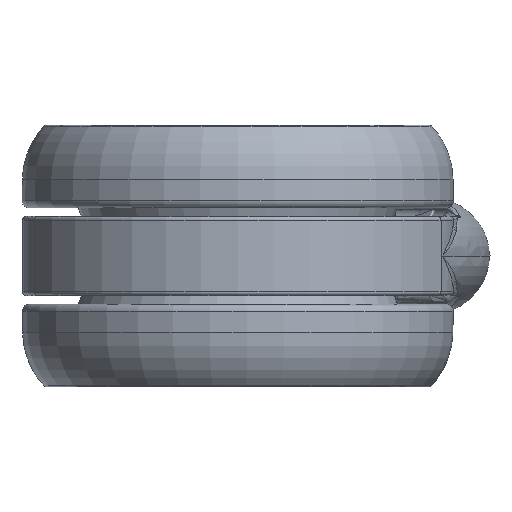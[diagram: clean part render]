
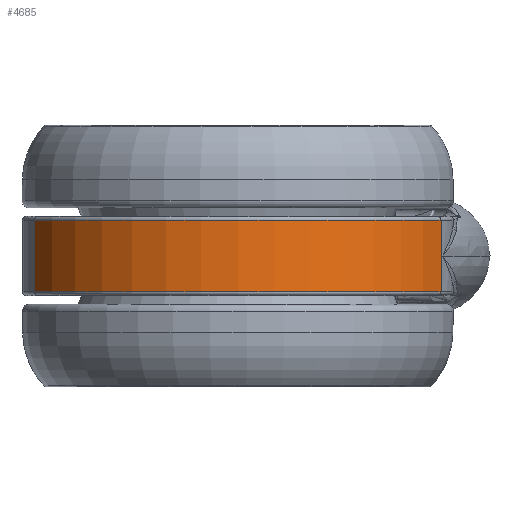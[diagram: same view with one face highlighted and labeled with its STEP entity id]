
A CAD part, front view. The second image highlights one B-rep face of the part: STEP entity #4685.
In plain terms, the highlighted cylindrical face has radius 30.924 mm (diameter 61.847 mm), a partial arc.
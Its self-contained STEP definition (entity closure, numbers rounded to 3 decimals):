
#260 = CARTESIAN_POINT ( 'NONE',  ( 28.273, -8.602, 12.5 ) ) ;
#346 = AXIS2_PLACEMENT_3D ( 'NONE', #4467, #7921, #9435 ) ;
#1174 = CIRCLE ( 'NONE', #3691, 30.924 ) ;
#1306 = CARTESIAN_POINT ( 'NONE',  ( 0., 3.924, 5. ) ) ;
#1681 = EDGE_CURVE ( 'NONE', #7825, #9027, #2354, .T. ) ;
#2264 = LINE ( 'NONE', #11878, #3763 ) ;
#2354 = CIRCLE ( 'NONE', #2620, 30.924 ) ;
#2620 = AXIS2_PLACEMENT_3D ( 'NONE', #1306, #12986, #9580 ) ;
#3373 = CARTESIAN_POINT ( 'NONE',  ( 28.273, -8.602, -5. ) ) ;
#3691 = AXIS2_PLACEMENT_3D ( 'NONE', #4621, #6739, #9430 ) ;
#3763 = VECTOR ( 'NONE', #7133, 1000. ) ;
#3973 = DIRECTION ( 'NONE',  ( 0., 0., 1. ) ) ;
#4046 = LINE ( 'NONE', #260, #4145 ) ;
#4145 = VECTOR ( 'NONE', #3973, 1000. ) ;
#4467 = CARTESIAN_POINT ( 'NONE',  ( 0., 3.924, 12.5 ) ) ;
#4621 = CARTESIAN_POINT ( 'NONE',  ( 0., 3.924, -5. ) ) ;
#4685 = ADVANCED_FACE ( 'NONE', ( #8167 ), #13053, .T. ) ;
#5339 = EDGE_CURVE ( 'NONE', #12306, #7825, #4046, .T. ) ;
#6521 = ORIENTED_EDGE ( 'NONE', *, *, #8034, .T. ) ;
#6739 = DIRECTION ( 'NONE',  ( 0., 0., 1. ) ) ;
#7133 = DIRECTION ( 'NONE',  ( 0., 0., -1. ) ) ;
#7724 = CARTESIAN_POINT ( 'NONE',  ( 28.273, -8.602, 5. ) ) ;
#7758 = ORIENTED_EDGE ( 'NONE', *, *, #10458, .T. ) ;
#7825 = VERTEX_POINT ( 'NONE', #7724 ) ;
#7921 = DIRECTION ( 'NONE',  ( 0., 0., -1. ) ) ;
#8034 = EDGE_CURVE ( 'NONE', #11863, #12306, #1174, .T. ) ;
#8167 = FACE_OUTER_BOUND ( 'NONE', #13395, .T. ) ;
#8682 = CARTESIAN_POINT ( 'NONE',  ( -28.273, -8.602, -5. ) ) ;
#9027 = VERTEX_POINT ( 'NONE', #14344 ) ;
#9430 = DIRECTION ( 'NONE',  ( -1., 0., 0. ) ) ;
#9435 = DIRECTION ( 'NONE',  ( -1., 0., 0. ) ) ;
#9580 = DIRECTION ( 'NONE',  ( 1., 0., 0. ) ) ;
#9979 = ORIENTED_EDGE ( 'NONE', *, *, #1681, .T. ) ;
#10458 = EDGE_CURVE ( 'NONE', #9027, #11863, #2264, .T. ) ;
#11863 = VERTEX_POINT ( 'NONE', #8682 ) ;
#11878 = CARTESIAN_POINT ( 'NONE',  ( -28.273, -8.602, 12.5 ) ) ;
#12306 = VERTEX_POINT ( 'NONE', #3373 ) ;
#12986 = DIRECTION ( 'NONE',  ( 0., 0., -1. ) ) ;
#13053 = CYLINDRICAL_SURFACE ( 'NONE', #346, 30.924 ) ;
#13395 = EDGE_LOOP ( 'NONE', ( #7758, #6521, #13606, #9979 ) ) ;
#13606 = ORIENTED_EDGE ( 'NONE', *, *, #5339, .T. ) ;
#14344 = CARTESIAN_POINT ( 'NONE',  ( -28.273, -8.602, 5. ) ) ;
